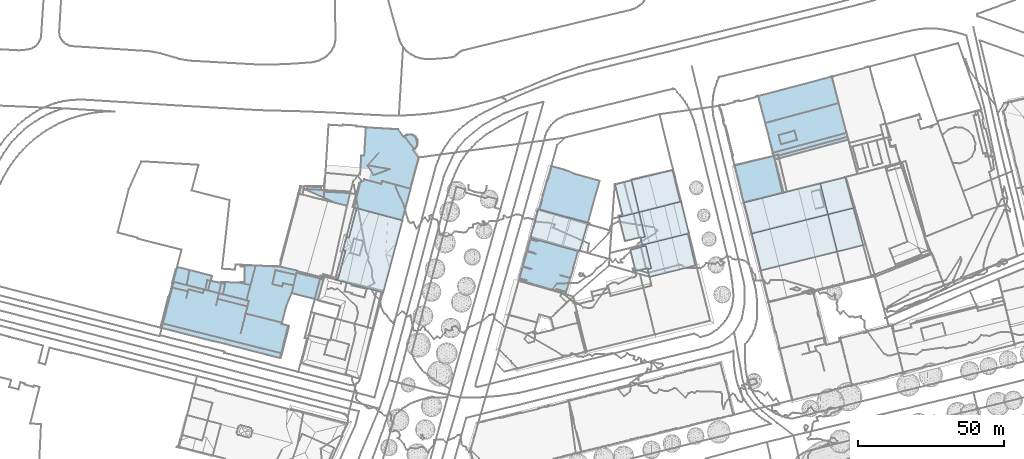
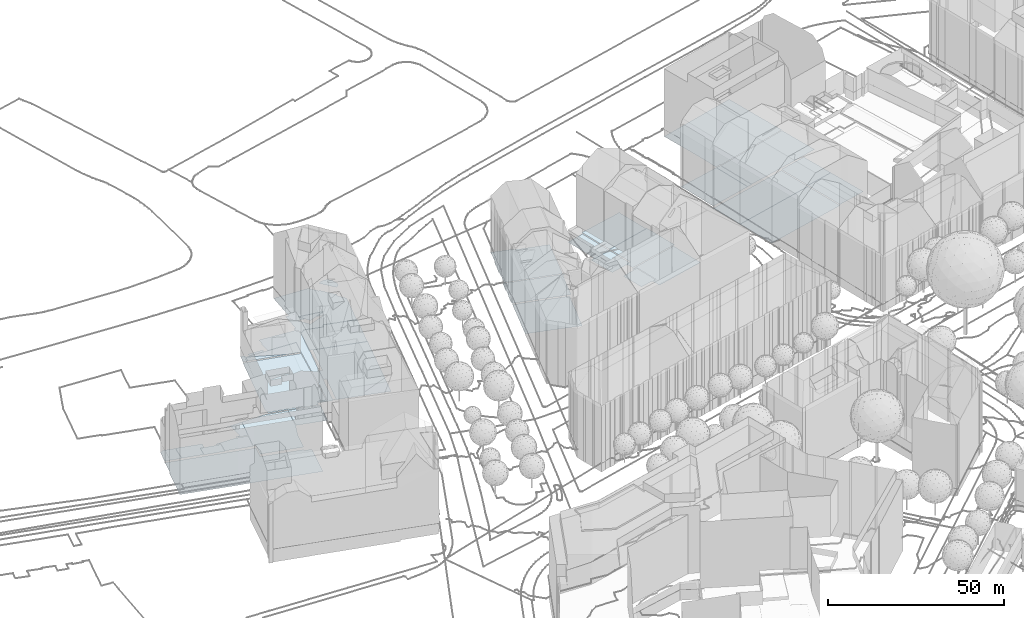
# Not in any storey, part 19 of 477: 15 footings.
"""IFC4 building model written with IfcOpenShell, lengths in metres."""

from ifc_helpers import new_model, si_unit, frame, origin_with_axes, place, context, subcontext, project, spatial, polygons, element, save


model = new_model("IFC4")

# Units and contexts
model_context = context("Model", 3, precision=1e-05, world=origin_with_axes())
body_context = subcontext(model_context, "Body", "Model", "MODEL_VIEW")
ifc_project = project(units=[si_unit("AREAUNIT", "SQUARE_METRE"), si_unit("LENGTHUNIT", "METRE")], contexts=[model_context])

# Sites, building
site_1_placement = place(None, origin_with_axes())
site_1 = spatial("IfcSite", under=ifc_project, at=site_1_placement, Name="Topoexport Site")
site_2_placement = place(site_1_placement, origin_with_axes())
site_2 = spatial("IfcSite", under=site_1, at=site_2_placement, Name="TPX_BUILDINGS")
building_1_placement = place(site_2_placement, frame((64.667732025, 395.1844160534, 537.6027), z_axis=(0.0, 0.0, 1.0), x_axis=(1.0, 0.0, 0.0)))
building_1 = spatial("IfcBuilding", under=site_2, at=building_1_placement, Name="Building 211", CompositionType="ELEMENT")

# Footing
footing_1_placement = place(None, frame((64.667732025, 395.1844160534, 537.6027), z_axis=(0.0, 0.0, 1.0), x_axis=(1.0, 0.0, 0.0)))
element("IfcFooting", 1, at=footing_1_placement, inside=building_1, Name="Floor 0", context=body_context, shape_type="Tessellation", body=[
    polygons([(2.001000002, 6.9941000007, 0.0), (5.7960000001, -1.683600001, 0.0), (0.0, 0.0, 0.0), (9.7090000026, -2.8203000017, 0.0), (14.5840000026, -4.2382999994, 0.0), (17.6490000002, 1.0409999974, 0.0), (15.995000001, -4.6484999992, -0.0001), (18.6610000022, 4.2949000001, 0.0), (17.7280000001, 1.0175999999, 0.0), (2.7980000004, 9.7821999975, 0.0), (9.7730000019, 12.7919999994, 0.0), (4.0940000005, 14.311499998, 0.0), (18.5920000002, 4.3182999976, 0.0), (14.9600000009, 11.3524999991, 0.0), (18.8600000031, 5.245099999, 0.0), (13.6960000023, 11.6972000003, 0.0), (20.200000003, 9.8876999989, 0.0)], [[[1, 2, 3]], [[2, 1, 4]], [[5, 4, 6]], [[7, 5, 6]], [[6, 8, 9]], [[4, 1, 6]], [[10, 11, 1]], [[12, 11, 10]], [[6, 13, 8]], [[13, 14, 15]], [[6, 16, 13]], [[15, 14, 17]], [[13, 16, 14]], [[11, 16, 1]], [[1, 16, 6]]]),
])

# Building
building_2_placement = place(site_2_placement, frame((102.7887320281, 405.5477160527, 537.9757), z_axis=(0.0, 0.0, 1.0), x_axis=(1.0, 0.0, 0.0)))
building_2 = spatial("IfcBuilding", under=site_2, at=building_2_placement, Name="Building 213", CompositionType="ELEMENT")

# Footing
footing_2_placement = place(None, frame((102.7887320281, 405.5477160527, 537.9757), z_axis=(0.0, 0.0, 1.0), x_axis=(1.0, 0.0, 0.0)))
element("IfcFooting", 2, at=footing_2_placement, inside=building_2, Name="Floor 0", context=body_context, shape_type="Tessellation", body=[
    polygons([(9.3090000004, 2.9882000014, 0.152), (14.2089999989, 4.2109000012, 0.152), (7.1319999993, -6.3047000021, 0.1519), (5.2899999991, 1.4569999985, 0.152), (3.9609999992, 1.1415999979, 0.152), (3.8389999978, 1.6220000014, 0.152), (19.6569999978, 5.5711999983, 0.1519), (22.2419999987, -5.3194000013, 0.1519), (16.7939999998, -6.6768000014, 0.1519), (11.8929999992, -7.8984999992, 0.1519), (6.5639999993, -9.2256000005, 0.1519), (5.9039999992, -6.5967000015, 0.1519), (3.9849999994, 1.0478000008, 0.0), (3.9609999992, 1.1415999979, 0.0), (5.2899999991, 1.4569999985, 0.0), (5.8159999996, -6.2481000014, 0.0), (1.7809999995, -7.2294999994, 0.0), (0.0, 0.0, 0.0), (5.9039999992, -6.5967000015, 0.0), (7.1319999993, -6.3047000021, 0.0)], [[[1, 2, 3]], [[1, 3, 4]], [[4, 5, 6]], [[6, 1, 4]], [[7, 8, 2]], [[9, 3, 2]], [[9, 10, 3]], [[11, 12, 3]], [[3, 10, 11]], [[2, 8, 9]], [[13, 14, 15]], [[15, 16, 13]], [[17, 18, 13]], [[19, 16, 20]], [[17, 13, 16]], [[16, 15, 20]]]),
])

# Building
building_3_placement = place(site_2_placement, frame((98.9137320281, 416.7703160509, 537.9817), z_axis=(0.0, 0.0, 1.0), x_axis=(1.0, 0.0, 0.0)))
building_3 = spatial("IfcBuilding", under=site_2, at=building_3_placement, Name="Building 215", CompositionType="ELEMENT")

# Footing
footing_3_placement = place(None, frame((98.9137320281, 416.7703160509, 537.9817), z_axis=(0.0, 0.0, 1.0), x_axis=(1.0, 0.0, 0.0)))
element("IfcFooting", 3, at=footing_3_placement, inside=building_3, Name="Floor 0", context=body_context, shape_type="Tessellation", body=[
    polygons([(23.9799999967, -5.5399999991, 0.4299), (23.7749999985, -5.0399999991, 0.4299), (23.8599999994, -5.0223999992, 0.4299), (21.2329999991, 5.2588, 0.4299), (18.243999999, 4.5996000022, 0.4299), (8.8509999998, -6.753899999, 0.4299), (21.1469999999, 5.3467000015, 0.4299), (21.1049999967, 5.5108000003, 0.4299), (21.1659999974, 5.5244000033, 0.4299), (18.6039999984, 4.692400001, 0.4299), (12.8999999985, 3.2256000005, 0.4299), (10.2969999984, -8.9520999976, 0.4299), (7.9560000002, -9.5361000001, 0.4299), (7.3609999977, -7.1074000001, 0.4299), (10.0669999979, 2.4883000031, 0.4299), (6.8469999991, 1.6904000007, 0.4299), (7.680999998, 1.8965000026, 0.4299), (6.8469999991, 1.6904000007, 0.0), (7.3090000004, -6.8954999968, 0.0), (5.2879999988, 1.3047000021, 0.0), (2.0399999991, -8.1669999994, 0.0), (0.0, 0.0, 0.0), (7.3609999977, -7.1074000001, 0.0), (8.8509999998, -6.753899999, 0.0)], [[[1, 2, 3]], [[4, 2, 5]], [[6, 5, 2]], [[7, 8, 9]], [[9, 4, 7]], [[7, 4, 10]], [[11, 5, 6]], [[5, 10, 4]], [[1, 12, 2]], [[13, 6, 12]], [[13, 14, 6]], [[15, 11, 6]], [[16, 17, 6]], [[15, 6, 17]], [[2, 12, 6]], [[18, 19, 20]], [[20, 21, 22]], [[23, 19, 24]], [[21, 20, 19]], [[19, 18, 24]]]),
])

# Building
building_4_placement = place(site_2_placement, frame((97.5747320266, 427.9617160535, 537.9817), z_axis=(0.0, 0.0, 1.0), x_axis=(1.0, 0.0, 0.0)))
building_4 = spatial("IfcBuilding", under=site_2, at=building_4_placement, Name="Building 216", CompositionType="ELEMENT")

# Footing
footing_4_placement = place(None, frame((97.5747320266, 427.9617160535, 537.9817), z_axis=(0.0, 0.0, 1.0), x_axis=(1.0, 0.0, 0.0)))
element("IfcFooting", 4, at=footing_4_placement, inside=building_4, Name="Floor 0", context=body_context, shape_type="Tessellation", body=[
    polygons([(6.6270000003, -9.8867000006, 0.0), (2.5130000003, -10.4209000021, 0.0), (0.0, 0.0, 0.0), (5.5989999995, 1.3984999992, 0.0), (2.3269999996, -10.6279000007, 0.0), (2.2910000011, -10.4756000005, 0.0), (1.3359999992, -11.1777000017, 0.0), (1.262000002, -10.879900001, 0.0), (8.1860000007, -9.5, 0.0), (11.4310000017, 3.0196000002, 0.407), (14.2390000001, -7.9658000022, 0.4069), (11.4050000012, -8.6982000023, 0.4069), (10.313000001, -8.9736000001, 0.4069), (5.5989999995, 1.3984999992, 0.407), (19.5830000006, -6.5918000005, 0.4069), (22.2230000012, -5.6592000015, 0.4069), (22.4860000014, -5.8447000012, 0.4069), (22.4250000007, -5.6084000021, 0.4069), (21.4979999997, -2.8007999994, 0.4069), (8.1860000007, -9.5, 0.4069), (17.7349999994, 4.4296999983, 0.407), (5.5520000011, 1.5956999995, 0.407), (19.7010000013, 4.6054999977, 0.407), (19.7170000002, 4.9247999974, 0.407), (19.7930000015, 4.6279999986, 0.407)], [[[1, 2, 3]], [[3, 4, 1]], [[5, 6, 2]], [[5, 2, 1]], [[5, 7, 8]], [[5, 1, 7]], [[4, 9, 1]], [[10, 11, 12]], [[13, 14, 12]], [[15, 16, 17]], [[18, 17, 16]], [[16, 15, 19]], [[11, 19, 15]], [[20, 14, 13]], [[21, 19, 10]], [[10, 19, 11]], [[14, 22, 10]], [[23, 21, 24]], [[25, 23, 24]], [[21, 23, 19]], [[12, 14, 10]]]),
])

# Building
building_5_placement = place(site_2_placement, frame((71.5077320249, 419.4158160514, 538.2757), z_axis=(0.0, 0.0, 1.0), x_axis=(1.0, 0.0, 0.0)))
building_5 = spatial("IfcBuilding", under=site_2, at=building_5_placement, Name="Building 218", CompositionType="ELEMENT")

# Footing
footing_5_placement = place(None, frame((71.5077320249, 419.4158160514, 538.2757), z_axis=(0.0, 0.0, 1.0), x_axis=(1.0, 0.0, 0.0)))
element("IfcFooting", 5, at=footing_5_placement, inside=building_5, Name="Floor 0", context=body_context, shape_type="Tessellation", body=[
    polygons([(8.5660000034, 13.5342000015, 0.0), (3.2380000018, 10.6709000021, 0.0), (4.137000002, 13.8877000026, 0.0), (2.3280000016, 8.1416000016, 0.0), (12.2180000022, 12.0987000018, 0.0), (1.813000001, 6.3408000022, 0.0), (9.4630000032, 13.2743999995, 0.0), (3.057, 10.0225000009, 0.0), (15.4800000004, 11.1905000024, 0.0), (10.3780000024, -2.8768999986, 0.0), (4.2270000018, 14.438500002, 0.0), (4.0730000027, 13.9101999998, 0.0), (4.1350000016, 14.4649000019, 0.0), (4.2300000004, 14.7851999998, 0.0), (2.8170000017, 9.5780999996, 0.0), (2.9600000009, 10.0479000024, 0.0), (2.6860000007, 9.6192000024, 0.0), (2.2640000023, 8.1553000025, 0.0), (20.7310000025, 9.7285000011, 0.0), (14.3450000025, -3.9266999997, 0.0), (11.5430000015, -3.1571999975, 0.0), (1.1460000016, 3.3018000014, 0.0), (3.4560000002, -0.990199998, 0.0), (0.3550000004, 0.5391000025, 0.0), (5.2630000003, -1.4716999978, 0.0), (1.4710000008, 4.8701000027, 0.0), (10.9740000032, -3.0537, 0.0), (4.4660000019, -1.253899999, 0.0), (0.1120000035, 0.1436000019, 0.0), (1.3260000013, 4.9141000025, 0.0), (1.7470000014, 6.3613000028, 0.0), (0.0, 0.0, 0.0), (0.0480000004, 0.1641000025, 0.0), (0.2380000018, 0.5771999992, 0.0), (1.0390000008, 3.3311000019, 0.0), (16.7580000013, -4.5887999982, 0.0)], [[[1, 2, 3]], [[4, 5, 6]], [[1, 7, 2]], [[8, 7, 5]], [[5, 9, 10]], [[3, 11, 1]], [[12, 11, 3]], [[13, 14, 11]], [[14, 1, 11]], [[8, 15, 16]], [[15, 4, 17]], [[8, 5, 15]], [[4, 18, 17]], [[4, 15, 5]], [[7, 8, 2]], [[19, 20, 9]], [[21, 9, 20]], [[22, 23, 24]], [[9, 21, 10]], [[5, 10, 6]], [[25, 22, 26]], [[10, 21, 27]], [[23, 22, 28]], [[28, 22, 25]], [[10, 25, 6]], [[23, 29, 24]], [[26, 30, 6]], [[31, 6, 30]], [[25, 26, 6]], [[29, 32, 33]], [[29, 23, 32]], [[24, 29, 34]], [[22, 35, 26]], [[19, 36, 20]]]),
])

# Building
building_6_placement = place(site_2_placement, frame((68.6347320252, 410.0320160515, 538.0377), z_axis=(0.0, 0.0, 1.0), x_axis=(1.0, 0.0, 0.0)))
building_6 = spatial("IfcBuilding", under=site_2, at=building_6_placement, Name="Building 219", CompositionType="ELEMENT")

# Footing
footing_6_placement = place(None, frame((68.6347320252, 410.0320160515, 538.0377), z_axis=(0.0, 0.0, 1.0), x_axis=(1.0, 0.0, 0.0)))
element("IfcFooting", 6, at=footing_6_placement, inside=building_6, Name="Floor 0", context=body_context, shape_type="Tessellation", body=[
    polygons([(19.4299999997, 4.3506000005, 0.0), (14.4160000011, 6.2266000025, 0.0), (17.2180000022, 5.4571000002, 0.0), (20.1390000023, 4.6543000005, 0.0), (13.8470000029, 6.3300999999, 0.0), (1.825000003, 5.9942000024, 0.0), (7.3390000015, 8.129900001, 0.0), (8.1359999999, 7.9121000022, 0.0), (1.9890000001, 7.0331999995, 0.0), (13.251000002, 6.5069000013, 0.0), (20.0100000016, 4.1856000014, 0.0), (2.8010000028, 9.1338, 0.0), (2.8729999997, 9.3838, 0.0), (6.3289999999, 8.3936000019, 0.0), (2.4110000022, 8.5088, 0.0), (2.5300000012, 9.2118999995, 0.0), (1.745000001, 6.4053000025, 0.0), (1.9340000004, 7.0479000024, 0.0), (1.8060000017, 6.3877000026, 0.0), (2.3420000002, 8.5284000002, 0.0), (16.7870000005, -4.8231999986, 0.0), (16.2850000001, -4.7802000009, 0.0), (16.7609999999, -4.9149999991, 0.0), (16.2340000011, -4.9580000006, 0.0), (10.9930000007, -3.495099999, 0.0), (10.5390000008, -3.375, 0.0), (1.0260000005, 3.1289000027, 0.0), (5.4290000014, -1.9501999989, 0.0), (1.7060000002, 6.0303000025, 0.0), (0.2589999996, -0.0742000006, 0.0), (0.1270000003, -0.5350999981, 0.0), (0.8940000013, 3.1631000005, 0.0), (0.0, 0.0, 0.0)], [[[1, 2, 3]], [[4, 1, 3]], [[1, 5, 2]], [[6, 7, 8]], [[9, 7, 6]], [[10, 6, 8]], [[5, 1, 10]], [[4, 11, 1]], [[12, 13, 14]], [[14, 15, 12]], [[15, 16, 12]], [[15, 14, 9]], [[17, 18, 19]], [[7, 9, 14]], [[20, 16, 15]], [[9, 19, 18]], [[21, 22, 1]], [[22, 21, 23]], [[24, 25, 22]], [[26, 27, 1]], [[25, 26, 1]], [[22, 25, 1]], [[26, 28, 27]], [[1, 27, 6]], [[19, 6, 29]], [[9, 6, 19]], [[30, 28, 31]], [[32, 30, 33]], [[28, 32, 27]], [[32, 28, 30]], [[10, 1, 6]]]),
])

# Building
building_7_placement = place(site_2_placement, frame((138.3257320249, 434.5047160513, 538.8886), z_axis=(0.0, 0.0, 1.0), x_axis=(1.0, 0.0, 0.0)))
building_7 = spatial("IfcBuilding", under=site_2, at=building_7_placement, Name="Building 221", CompositionType="ELEMENT")

# Footing
footing_7_placement = place(None, frame((138.3257320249, 434.5047160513, 538.8886), z_axis=(0.0, 0.0, 1.0), x_axis=(1.0, 0.0, 0.0)))
element("IfcFooting", 7, at=footing_7_placement, inside=building_7, Name="Floor 0", context=body_context, shape_type="Tessellation", body=[
    polygons([(0.807, 0.1914000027, 0.0), (4.6380000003, 1.0956999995, 0.0), (0.3480000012, -0.615199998, 0.0), (9.8220000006, 2.3213, 0.0), (2.4940000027, -9.5020000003, 0.0), (0.1640000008, -0.6611000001, 0.0), (0.0, 0.0, 0.0), (13.5280000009, 3.1963, 0.0), (16.518000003, -9.4560999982, 0.0), (12.825000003, -10.3867000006, 0.0), (3.8420000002, -12.6532999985, 0.0), (7.6590000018, -11.6904000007, 0.0), (3.2370000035, -12.8046999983, 0.0), (2.4230000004, -9.5194999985, 0.0)], [[[1, 2, 3]], [[4, 5, 2]], [[3, 2, 5]], [[6, 7, 3]], [[3, 7, 1]], [[8, 5, 4]], [[5, 9, 10]], [[11, 5, 12]], [[12, 5, 10]], [[11, 13, 5]], [[5, 13, 14]], [[8, 9, 5]]]),
])

# Building
building_8_placement = place(site_2_placement, frame((146.5207320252, 458.1258160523, 539.1716), z_axis=(0.0, 0.0, 1.0), x_axis=(1.0, 0.0, 0.0)))
building_8 = spatial("IfcBuilding", under=site_2, at=building_8_placement, Name="Building 222", CompositionType="ELEMENT")

# Footing
footing_8_placement = place(None, frame((146.5207320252, 458.1258160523, 539.1716), z_axis=(0.0, 0.0, 1.0), x_axis=(1.0, 0.0, 0.0)))
element("IfcFooting", 8, at=footing_8_placement, inside=building_8, Name="Floor 0", context=body_context, shape_type="Tessellation", body=[
    polygons([(6.8610000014, -20.0645000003, 0.0), (4.9539999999, -19.4560999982, 0.0), (4.887000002, -19.0351999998, 0.0), (0.0, 0.0, 0.0), (26.2660000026, 2.5370999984, 0.0), (3.495000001, -13.2324000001, 0.0), (4.0580000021, -15.6338, 0.0), (5.3330000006, -20.4248000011, 0.0), (5.189000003, -20.4589999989, 0.0), (5.3910000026, -20.4120999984, 0.0), (25.1030000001, 6.7899999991, 0.0), (25.1620000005, 6.8055999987, 0.0), (25.137000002, 6.6611000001, 0.0), (25.3410000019, 6.1123000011, 0.0), (30.5660000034, -13.9092000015, -0.0001), (6.9210000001, -20.317400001, 0.0), (28.3380000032, -5.4688000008, 0.0), (6.9210000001, -20.317400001, -0.206), (30.0260000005, -27.6796999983, -0.206), (9.8399999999, -32.6708999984, -0.206), (30.5660000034, -13.9092000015, -0.206), (33.9230000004, -26.629900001, -0.206), (8.3230000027, -33.0771999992, -0.283), (5.3330000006, -20.4248000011, -0.283), (9.8440000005, -32.6875, -0.283), (6.8610000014, -20.0645000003, -0.283)], [[[1, 2, 3]], [[4, 5, 6]], [[1, 3, 7]], [[2, 8, 9]], [[8, 2, 10]], [[2, 1, 10]], [[6, 1, 7]], [[11, 12, 13]], [[4, 13, 5]], [[14, 13, 12]], [[14, 5, 13]], [[1, 15, 16]], [[15, 1, 17]], [[1, 6, 17]], [[17, 6, 5]], [[18, 19, 20]], [[21, 22, 19]], [[19, 18, 21]], [[23, 24, 25]], [[26, 25, 24]]]),
])

# Building
building_9_placement = place(site_2_placement, frame((141.5627320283, 421.7029160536, 538.0287), z_axis=(0.0, 0.0, 1.0), x_axis=(1.0, 0.0, 0.0)))
building_9 = spatial("IfcBuilding", under=site_2, at=building_9_placement, Name="Building 227", CompositionType="ELEMENT")

# Footing
footing_9_placement = place(None, frame((141.5627320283, 421.7029160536, 538.0287), z_axis=(0.0, 0.0, 1.0), x_axis=(1.0, 0.0, 0.0)))
element("IfcFooting", 9, at=footing_9_placement, inside=building_9, Name="Floor 0", context=body_context, shape_type="Tessellation", body=[
    polygons([(0.1639999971, -0.2509000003, 0.0), (0.068, -0.2773000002, 0.0), (0.0, 0.0, 0.0), (4.6199999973, 1.1620999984, 0.0), (1.2789999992, -4.629900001, 0.0), (21.2369999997, -5.9033000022, -0.0001), (5.5149999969, -9.8603000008, -0.0001), (2.0719999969, -7.7422000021, -0.0001), (2.743999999, -10.5576000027, -0.0001), (6.3049999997, 1.5868999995, 0.0), (18.6409999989, 4.6992999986, -0.0001), (21.1679999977, 5.3281999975, -0.0001), (23.0039999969, -5.4580000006, -0.0001), (26.1769999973, 6.5751999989, -0.0001), (28.7859999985, -4.0019000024, -0.0001), (28.7859999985, -4.0019000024, 0.3629), (34.737999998, 8.6875, 0.3629), (37.5109999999, -1.7968000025, 0.3629), (26.1769999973, 6.5751999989, 0.3629)], [[[1, 2, 3]], [[4, 1, 3]], [[4, 5, 1]], [[6, 7, 8]], [[7, 9, 8]], [[5, 6, 8]], [[4, 10, 5]], [[5, 10, 6]], [[11, 12, 13]], [[10, 11, 6]], [[12, 14, 13]], [[14, 15, 13]], [[13, 6, 11]], [[16, 17, 18]], [[17, 16, 19]]]),
])

# Building
building_10_placement = place(site_2_placement, frame((144.3067320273, 411.1453160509, 538.0286), z_axis=(0.0, 0.0, 1.0), x_axis=(1.0, 0.0, 0.0)))
building_10 = spatial("IfcBuilding", under=site_2, at=building_10_placement, Name="Building 230", CompositionType="ELEMENT")

# Footing
footing_10_placement = place(None, frame((144.3067320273, 411.1453160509, 538.0286), z_axis=(0.0, 0.0, 1.0), x_axis=(1.0, 0.0, 0.0)))
element("IfcFooting", 10, at=footing_10_placement, inside=building_10, Name="Floor 0", context=body_context, shape_type="Tessellation", body=[
    polygons([(34.7670000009, 8.7608000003, 0.363), (38.129999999, -3.9598999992, 0.363), (26.0419999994, 6.5537, 0.363), (29.1799999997, -6.1757999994, 0.363), (20.2540000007, 5.0976999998, 0.0), (25.2320000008, 6.3516000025, 0.0), (29.1799999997, -6.1757999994, 0.0), (1.2159999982, -4.8876999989, 0.0), (6.1660000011, 1.5518000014, 0.0), (18.5089999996, 4.6582000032, 0.0), (22.4479999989, -7.8436999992, 0.0), (0.5329999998, -2.1435000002, 0.0), (2.7709999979, 0.697300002, 0.0), (0.0, 0.0, 0.0), (26.0399999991, 6.5615000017, 0.0), (21.6400000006, -8.0438999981, 0.0), (8.7689999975, -11.2324000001, 0.0), (2.129999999, -8.5653999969, 0.0), (9.3079999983, -11.0986000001, 0.0), (3.8379999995, -12.4530999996, 0.0), (3.1160000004, -12.6327999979, 0.0), (2.6229999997, -10.5995999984, 0.0)], [[[1, 2, 3]], [[4, 3, 2]], [[5, 6, 7]], [[8, 9, 10]], [[5, 11, 10]], [[9, 12, 13]], [[12, 14, 13]], [[8, 12, 9]], [[15, 7, 6]], [[16, 10, 11]], [[17, 18, 19]], [[16, 8, 10]], [[16, 19, 8]], [[19, 18, 8]], [[20, 21, 22]], [[18, 17, 22]], [[22, 17, 20]], [[5, 7, 11]]]),
])

# Building
building_11_placement = place(site_2_placement, frame((-8.9362679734, 426.3592160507, 536.4029), z_axis=(0.0, 0.0, 1.0), x_axis=(1.0, 0.0, 0.0)))
building_11 = spatial("IfcBuilding", under=site_2, at=building_11_placement, Name="Building 232", CompositionType="ELEMENT")

# Footings
footing_11_placement = place(None, frame((-8.9362679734, 426.3592160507, 536.4029), z_axis=(0.0, 0.0, 1.0), x_axis=(1.0, 0.0, 0.0)))
element("IfcFooting", 11, at=footing_11_placement, inside=building_11, Name="Floor 0", context=body_context, shape_type="Tessellation", body=[
    polygons([(5.8740000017, -0.3271999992, 0.058), (1.1640000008, -0.0644999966, 0.058), (5.9189999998, 0.5547000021, 0.058), (1.2129999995, 0.8262000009, 0.058), (14.8480000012, -5.75, 0.0), (7.0980000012, -0.3954999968, 0.0), (16.0089999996, -0.8905999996, 0.0), (0.0, 0.0, 0.0), (11.1169999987, -4.8271999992, 0.0)], [[[1, 2, 3]], [[4, 3, 2]], [[5, 6, 7]], [[8, 6, 9]], [[6, 5, 9]]]),
])
footing_12_placement = place(None, frame((-8.9362679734, 426.3592160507, 536.4029), z_axis=(0.0, 0.0, 1.0), x_axis=(1.0, 0.0, 0.0)))
element("IfcFooting", 12, at=footing_12_placement, inside=building_11, Name="Floor 1", context=body_context, shape_type="Tessellation", body=[
    polygons([(8.2069999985, -4.1074999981, -0.4459), (-5.1600000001, -14.0937999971, -0.4459), (-0.3999999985, -1.9775999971, -0.4459), (14.8480000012, -5.75, -0.4459), (6.6689999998, -29.1386999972, -0.446), (-2.2430000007, -27.9169999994, -0.446), (-1.8319999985, -1.623999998, -0.4459), (-6.6229999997, -19.5800999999, -0.4459), (6.375, -30.2431999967, -0.446), (-2.2839999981, -28.0937999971, -0.446), (-7.9070000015, -24.3896999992, -0.4459), (-7.9719999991, -26.120099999, -0.446), (-8.0920000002, -26.5800999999, -0.446), (9.4329999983, -29.8525999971, -0.446), (9.4329999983, -29.8525999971, -0.033), (10.756000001, -30.9794999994, -0.033), (6.4860000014, -29.8271999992, -0.033), (6.6689999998, -29.1386999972, -0.033), (10.8460000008, -30.6904999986, -0.033), (17.2170000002, -6.3476999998, -0.033), (17.2829999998, -6.3652999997, -0.033), (14.8480000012, -5.75, -0.033), (19.4349999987, 2.3027000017, -0.033), (6.9140000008, -2.8945999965, -0.033), (7.1140000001, 3.3945000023, -0.033), (7.3370000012, 3.3808000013, -0.033), (18.7019999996, 4.4394000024, -0.033), (19.6229999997, 3.0371000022, -0.033), (7.4710000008, 5.5029000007, -0.033), (6.8850000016, -3.7802999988, -0.033), (-2.2839999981, -28.0937999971, -0.6259), (6.9120000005, -30.3769999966, -0.6259), (-2.4219999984, -28.6933999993, -0.6259), (-2.6319999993, -29.3495999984, -0.6259), (4.9090000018, -37.9482999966, -0.6261), (-3.4829999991, -33.0224999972, -0.6259), (-4.0320000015, -35.6318999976, -0.6261), (0.1389999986, 0.6758000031, -0.039), (-0.3999999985, -1.9775999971, -0.039), (-1.8319999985, -1.623999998, -0.039), (-1.1319999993, 1.001000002, -0.039), (-19.5560000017, -38.0751999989, -0.996), (-21.8209999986, -32.0537, -0.9959), (-18.1860000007, -32.9257999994, -0.9959), (-27.6099999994, -36.0175999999, -0.996), (-28.1959999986, -31.8056999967, -0.9959), (-26.8599999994, -32.4628999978, -0.9959), (-28.2639999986, -32.1650999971, -0.9959), (-21.6000000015, -31.9745999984, -0.8159), (-21.8209999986, -32.0537, -0.8159), (-21.8220000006, -31.9648999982, -0.8159), (-18.1860000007, -32.9257999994, -0.8159), (-20.2479999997, -31.8329999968, -0.8159), (-21.5839999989, -31.7675999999, -0.8159), (-20.2390000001, -26.5126999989, -0.8159), (-21.5639999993, -26.4482999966, -0.8159), (-21.568, -26.2665999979, -0.8159), (-16.4010000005, -26.2206999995, -0.8159), (-4.1490000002, -35.6015999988, -0.8389), (-3.4829999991, -33.0224999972, -0.8389), (-4.0320000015, -35.6318999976, -0.839), (-8.9769999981, -26.3720999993, -0.8389), (-5.1180000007, -37.9423999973, -0.839), (-2.4219999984, -28.6933999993, -0.8389), (-2.6319999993, -29.3495999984, -0.8389), (-2.2430000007, -27.9169999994, -0.8389), (-5.8900000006, -39.8037, -0.839), (-18.1860000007, -32.9257999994, -0.8389), (-18.7329999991, -38.2841999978, -0.839), (-7.4149999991, -45.7294999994, -0.839), (-19.8209999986, -42.6132999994, -0.839), (-16.4010000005, -26.2206999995, -0.8389), (-19.5560000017, -38.0751999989, -0.839), (-28.9299999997, -35.6806999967, -1.167), (-26.8599999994, -32.4628999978, -1.1669), (-27.6099999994, -36.0175999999, -1.167), (-32.9360000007, -31.1796999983, -1.1669), (-33.6359999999, -34.4970999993, -1.1669), (0.0, 0.0, 0.0), (6.8850000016, -3.7802999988, 0.0), (-0.3999999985, -1.9775999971, 0.0), (6.9100000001, -3.0019999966, 0.0), (-45.9400000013, -36.5146999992, -1.7229), (-34.0909999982, -34.3828999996, -1.7228), (-45.9459999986, -36.5380999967, -1.7229), (-45.2219999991, -33.7685999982, -1.7228), (-45.1979999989, -33.6757999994, -1.7228), (-47.0350000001, -39.8222999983, -1.7229), (-46.0850000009, -37.0702999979, -1.7229), (-19.8209999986, -42.6132999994, -1.7229), (-32.4349999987, -51.6806999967, -1.7229), (-48.5909999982, -45.9189999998, -1.7229), (-47.7969999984, -42.8085999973, -1.7229), (-48.9800000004, -47.4375, -1.7229), (-46.3170000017, -37.0116999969, -1.7229), (-28.9299999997, -35.6806999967, -1.7229), (-18.7329999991, -38.2841999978, -1.7229), (-7.4149999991, -45.7294999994, -1.723), (-7.5289999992, -46.1728999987, -1.723), (-6.0280000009, -49.5898999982, -1.723), (-27.9670000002, -52.7157999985, -1.7229), (-7.6860000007, -56.1904999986, -1.723), (-8.0989999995, -57.8310999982, -1.723), (-6.9050000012, -53.0790999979, -1.723), (-7.2829999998, -46.2353999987, -1.723), (-5.313000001, -46.7431999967, -1.723), (-39.0560000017, -27.75, -1.1469), (-39.9800000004, -32.8993999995, -1.1469), (-42.7340000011, -26.807599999, -1.1469), (-44.8669999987, -31.6708999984, -1.1469), (-43.7699999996, -27.4706999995, -1.1469), (-44.8669999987, -31.6708999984, -1.7228), (-44.7950000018, -32.1347999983, -1.7228), (-44.9759999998, -32.0868999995, -1.7228), (-32.9360000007, -31.1796999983, -1.0859), (-33.6359999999, -34.4970999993, -1.0859), (-39.9800000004, -32.8993999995, -1.0859), (-39.0560000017, -27.75, -1.0859), (-31.8289999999, -31.4130999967, -1.0859), (-31.3889999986, -29.7157999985, -1.0859)], [[[1, 2, 3]], [[1, 4, 5]], [[2, 1, 6]], [[7, 3, 2]], [[6, 8, 2]], [[1, 5, 6]], [[9, 10, 6]], [[6, 5, 9]], [[11, 8, 6]], [[6, 12, 11]], [[12, 6, 13]], [[4, 14, 5]], [[15, 16, 17]], [[17, 18, 15]], [[15, 19, 16]], [[20, 21, 19]], [[19, 22, 20]], [[22, 23, 20]], [[22, 19, 15]], [[22, 24, 25]], [[22, 25, 26]], [[22, 26, 27]], [[23, 27, 28]], [[27, 23, 22]], [[29, 27, 26]], [[22, 30, 24]], [[31, 32, 33]], [[33, 32, 34]], [[32, 35, 36]], [[36, 34, 32]], [[37, 36, 35]], [[38, 39, 40]], [[40, 41, 38]], [[42, 43, 44]], [[42, 45, 43]], [[46, 43, 47]], [[47, 48, 46]], [[47, 43, 45]], [[49, 50, 51]], [[49, 52, 50]], [[53, 49, 54]], [[55, 56, 57]], [[57, 58, 55]], [[58, 53, 55]], [[58, 52, 53]], [[52, 49, 53]], [[59, 60, 61]], [[59, 62, 60]], [[63, 62, 59]], [[62, 64, 65]], [[62, 66, 64]], [[60, 62, 65]], [[63, 67, 68]], [[67, 69, 68]], [[69, 70, 71]], [[62, 68, 72]], [[63, 68, 62]], [[73, 68, 69]], [[70, 69, 67]], [[74, 75, 76]], [[75, 74, 77]], [[74, 78, 77]], [[79, 80, 81]], [[80, 79, 82]], [[83, 84, 85]], [[83, 86, 84]], [[84, 86, 87]], [[88, 89, 90]], [[91, 92, 93]], [[85, 84, 89]], [[88, 91, 93]], [[92, 91, 94]], [[88, 95, 89]], [[96, 90, 84]], [[96, 97, 90]], [[91, 88, 90]], [[90, 98, 99]], [[99, 100, 90]], [[101, 102, 103]], [[91, 90, 101]], [[104, 90, 100]], [[105, 100, 99]], [[101, 90, 104]], [[102, 101, 104]], [[105, 106, 100]], [[89, 84, 90]], [[107, 108, 109]], [[110, 111, 109]], [[109, 108, 110]], [[112, 113, 114]], [[84, 113, 112]], [[87, 113, 84]], [[115, 116, 117]], [[117, 118, 115]], [[119, 115, 120]], [[115, 118, 120]]]),
])

# Building
building_12_placement = place(site_2_placement, frame((9.491732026, 430.8250160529, 536.5319), z_axis=(0.0, 0.0, 1.0), x_axis=(1.0, 0.0, 0.0)))
building_12 = spatial("IfcBuilding", under=site_2, at=building_12_placement, Name="Building 234", CompositionType="ELEMENT")

# Footing
footing_13_placement = place(None, frame((9.491732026, 430.8250160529, 536.5319), z_axis=(0.0, 0.0, 1.0), x_axis=(1.0, 0.0, 0.0)))
element("IfcFooting", 13, at=footing_13_placement, inside=building_12, Name="Floor 0", context=body_context, shape_type="Tessellation", body=[
    polygons([(16.0320000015, 13.5487999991, 0.0), (19.4360000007, 9.192400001, 0.0), (18.9730000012, 8.9248000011, 0.0), (15.7930000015, 13.3262000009, 0.0), (15.9670000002, 13.498999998, 0.0), (19.4000000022, 9.1660000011, 0.0), (19.1920000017, 9.0361000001, 0.0), (19.9210000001, 2.7509999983, 0.0), (20.8740000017, 6.3046999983, 0.0), (10.995000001, 2.2890999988, 0.0), (18.8330000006, -1.3057000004, 0.0), (2.5260000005, 10.9765999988, 0.0), (13.7170000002, 15.9648000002, 0.0), (13.449000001, 15.9804999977, 0.0), (2.818, 15.8544999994, 0.0), (2.8630000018, 16.5850000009, 0.0), (13.8819999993, 15.9560999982, 0.0), (2.2829999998, 6.932599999, 0.0), (2.3909999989, 8.7285000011, 0.0), (3.3640000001, 3.623999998, 0.0), (1.137000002, 4.566399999, 0.0), (1.2829999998, 6.9932000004, 0.0), (1.057, 3.2256000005, 0.0), (10.063000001, -2.2041000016, 0.0), (9.1000000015, -1.9433999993, 0.0), (8.3440000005, -1.7382999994, 0.0), (5.561999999, 0.2705000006, 0.0), (4.6290000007, -1.8066000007, 0.0), (0.9070000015, 0.7216999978, 0.0), (10.9800000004, -2.4521000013, 0.0), (11.6510000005, -2.634800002, 0.0), (18.0150000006, -4.3574000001, 0.0), (8.0639999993, -2.7382999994, 0.0), (2.1640000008, -1.1387000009, 0.0), (0.8940000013, 0.5020000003, 0.0), (0.6740000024, 0.8017999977, 0.0), (0.8139999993, 0.6112999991, 0.0), (0.2740000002, -0.0263999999, 0.0), (2.324000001, -1.4580000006, 0.0), (1.1950000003, -1.4287, 0.0), (1.0069999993, -2.1631000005, 0.0), (0.0, 0.0, 0.0), (17.0250000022, 14.0986000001, 2.4388), (19.3280000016, 9.3310999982, 2.4388), (16.7939999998, 14.0175999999, 2.4388), (17.262000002, 14.1601999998, 2.4388), (17.5040000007, 14.1992000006, 2.4388), (17.7490000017, 14.2177999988, 2.4388), (16.0320000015, 13.5487999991, 2.4388), (16.3579999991, 13.7958999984, 2.4388), (16.5710000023, 13.9160000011, 2.4388), (16.5100000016, 13.8808999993, 2.4388), (17.993999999, 14.2138999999, 2.4388), (18.2380000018, 14.1884999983, 2.4388), (18.4790000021, 14.1415999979, 2.4388), (19.9900000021, 12.9101999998, 2.4388), (18.7140000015, 14.0731999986, 2.4388), (19.1649999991, 13.8779000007, 2.4388), (18.943, 13.9844000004, 2.4388), (20.3900000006, 11.3935999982, 2.4388), (20.2259999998, 10.058600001, 2.4388), (20.1750000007, 9.9785000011, 2.4388), (20.3900000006, 10.3964999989, 2.4388), (20.3399999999, 10.2763999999, 2.4388), (3.3640000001, 3.623999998, 1.2759), (10.995000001, 2.2890999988, 1.2759), (5.561999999, 0.2705000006, 1.2759)], [[[1, 2, 3]], [[4, 5, 1]], [[4, 1, 3]], [[6, 7, 2]], [[8, 3, 9]], [[8, 10, 3]], [[10, 4, 3]], [[3, 2, 7]], [[11, 10, 8]], [[10, 12, 4]], [[13, 4, 14]], [[15, 16, 14]], [[15, 14, 12]], [[4, 13, 17]], [[18, 19, 10]], [[14, 4, 12]], [[20, 21, 18]], [[18, 21, 22]], [[23, 21, 20]], [[19, 12, 10]], [[20, 18, 10]], [[24, 25, 10]], [[26, 27, 10]], [[25, 26, 10]], [[26, 28, 27]], [[20, 27, 29]], [[30, 10, 31]], [[11, 32, 31]], [[28, 26, 33]], [[10, 30, 24]], [[28, 34, 27]], [[35, 29, 34]], [[36, 37, 38]], [[35, 38, 37]], [[20, 29, 23]], [[34, 39, 40]], [[27, 34, 29]], [[39, 41, 40]], [[35, 40, 38]], [[42, 36, 38]], [[35, 34, 40]], [[10, 11, 31]], [[43, 44, 45]], [[44, 46, 47]], [[46, 44, 43]], [[48, 44, 47]], [[49, 50, 44]], [[51, 45, 52]], [[45, 44, 52]], [[50, 52, 44]], [[53, 44, 48]], [[54, 55, 56]], [[55, 57, 56]], [[58, 56, 59]], [[56, 57, 59]], [[56, 44, 54]], [[60, 61, 62]], [[62, 44, 60]], [[60, 63, 64]], [[64, 61, 60]], [[56, 60, 44]], [[44, 53, 54]], [[65, 66, 67]]]),
])

# Building
building_13_placement = place(site_2_placement, frame((8.2807320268, 420.0125160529, 536.5319), z_axis=(0.0, 0.0, 1.0), x_axis=(1.0, 0.0, 0.0)))
building_13 = spatial("IfcBuilding", under=site_2, at=building_13_placement, Name="Building 236", CompositionType="ELEMENT")

# Footing
footing_14_placement = place(None, frame((8.2807320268, 420.0125160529, 536.5319), z_axis=(0.0, 0.0, 1.0), x_axis=(1.0, 0.0, 0.0)))
element("IfcFooting", 14, at=footing_14_placement, inside=building_13, Name="Floor 0", context=body_context, shape_type="Tessellation", body=[
    polygons([(9.2749999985, 8.0742000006, 0.0), (12.1909999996, 8.3603999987, 0.0), (12.8619999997, 8.177699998, 0.0), (11.2740000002, 8.6083999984, 0.0), (19.3759999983, 6.4140999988, 0.0), (10.3229999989, 8.8662, 0.0), (9.5549999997, 9.0742000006, 0.0), (10.1490000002, 8.9131000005, 0.0), (5.8399999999, 9.0058999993, 0.0), (2.2179999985, 8.6493999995, 0.0), (3.5350000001, 9.3544999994, 0.0), (3.375, 9.6737999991, 0.0), (17.4299999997, -0.7811999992, 0.0), (5.2019999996, -1.3838, 0.0), (11.5489999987, -3.072300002, 0.0), (13.8229999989, -3.6768000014, 0.0), (16.4569999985, -4.3779000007, 0.0), (5.1039999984, -1.3574000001, 0.0), (0.0, 0.0, 0.0), (1.6030000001, -0.4268000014, 0.0)], [[[1, 2, 3]], [[1, 4, 2]], [[1, 3, 5]], [[4, 1, 6]], [[7, 8, 1]], [[9, 10, 11]], [[9, 1, 10]], [[11, 12, 9]], [[6, 1, 8]], [[13, 14, 1]], [[15, 13, 16]], [[16, 13, 17]], [[13, 15, 14]], [[18, 1, 14]], [[18, 10, 1]], [[19, 10, 20]], [[10, 18, 20]], [[5, 13, 1]]]),
])

# Building
building_14_placement = place(site_2_placement, frame((1.8157320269, 395.3797160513, 536.5319), z_axis=(0.0, 0.0, 1.0), x_axis=(1.0, 0.0, 0.0)))
building_14 = spatial("IfcBuilding", under=site_2, at=building_14_placement, Name="Building 237", CompositionType="ELEMENT")

# Footing
footing_15_placement = place(None, frame((1.8157320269, 395.3797160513, 536.5319), z_axis=(0.0, 0.0, 1.0), x_axis=(1.0, 0.0, 0.0)))
element("IfcFooting", 15, at=footing_15_placement, inside=building_14, Name="Floor 0", context=body_context, shape_type="Tessellation", body=[
    polygons([(16.574000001, -3.9463, 0.0), (8.563000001, -2.3066999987, 0.0), (18.6409999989, 3.8203000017, 0.0), (19.745000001, 7.9717000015, 0.0), (16.4450000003, -4.4296999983, 0.0), (8.4459999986, -2.2753999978, 0.0), (3.5749999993, 9.9257999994, 0.0), (14.8999999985, 22.3887000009, 0.0), (4.7280000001, 14.2871000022, 0.0), (8.3209999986, -2.2421999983, 0.0), (18.0139999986, 21.5604999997, 0.0), (20.2879999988, 20.9560000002, 0.0), (20.9659999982, 12.5576000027, 0.0), (23.006000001, 20.2324000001, 0.0), (11.6620000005, 23.25, 0.0), (11.5689999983, 23.2754000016, 0.0), (6.3150000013, 20.3037, 0.0), (8.068, 24.2050999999, 0.0), (3.6620000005, -0.9862999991, 0.0), (1.9299999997, 3.7100000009, 0.0), (3.5, 9.9463, 0.0), (3.7100000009, 13.9590000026, 0.0), (0.9629999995, 0.0537, 0.0), (0.0, 0.0, 0.0), (0.0940000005, 0.2891000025, 0.0), (0.0830000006, -0.0224999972, 0.0), (4.5289999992, 14.3398000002, 0.0), (7.3909999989, 24.3857000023, 0.0), (3.8579999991, 14.5166000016, 0.0), (2.8020000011, 10.5254000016, 0.0), (2.7060000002, 10.1611000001, 0.0)], [[[1, 2, 3]], [[4, 3, 2]], [[1, 5, 2]], [[6, 7, 2]], [[8, 4, 9]], [[2, 7, 4]], [[6, 10, 7]], [[11, 12, 13]], [[13, 8, 11]], [[14, 13, 12]], [[8, 9, 15]], [[4, 8, 13]], [[16, 15, 17]], [[17, 18, 16]], [[7, 10, 19]], [[7, 19, 20]], [[21, 22, 7]], [[19, 23, 20]], [[24, 25, 26]], [[25, 23, 26]], [[19, 26, 23]], [[9, 22, 27]], [[28, 18, 17]], [[17, 15, 9]], [[7, 22, 9]], [[27, 22, 29]], [[30, 22, 21]], [[31, 30, 21]], [[9, 4, 7]]]),
])

save(model, "model.ifc")
